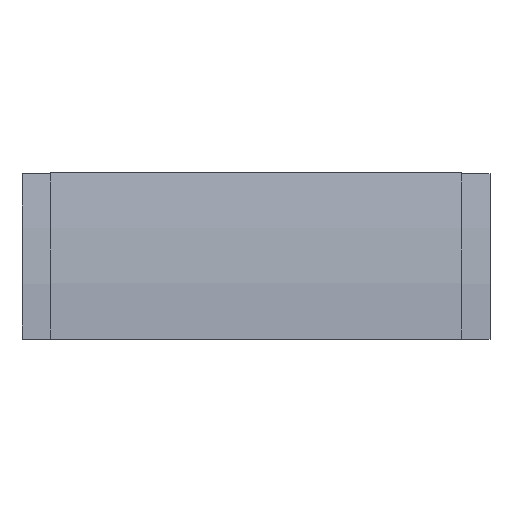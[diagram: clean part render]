
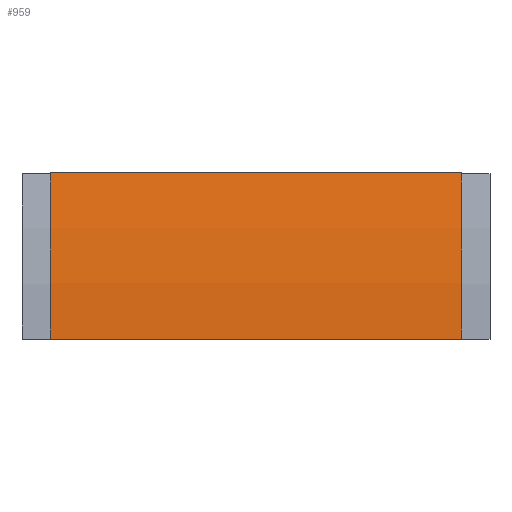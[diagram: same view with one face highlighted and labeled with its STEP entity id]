
A CAD part, front view. The second image highlights one B-rep face of the part: STEP entity #959.
In plain terms, the highlighted cylindrical face has radius 568 mm (diameter 1136 mm), a partial arc.
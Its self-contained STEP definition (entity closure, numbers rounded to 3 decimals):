
#11 = DIRECTION ( 'NONE',  ( 1., 0., 0. ) ) ;
#12 = CARTESIAN_POINT ( 'NONE',  ( -152., -68., 0. ) ) ;
#22 = DIRECTION ( 'NONE',  ( 1., 0., 0. ) ) ;
#24 = CARTESIAN_POINT ( 'NONE',  ( -152., -54.536, 122.938 ) ) ;
#34 = DIRECTION ( 'NONE',  ( 0., 0., -1. ) ) ;
#35 = DIRECTION ( 'NONE',  ( 1., 0., 0. ) ) ;
#36 = CARTESIAN_POINT ( 'NONE',  ( 152., 500., 0. ) ) ;
#71 = DIRECTION ( 'NONE',  ( 0., 0., -1. ) ) ;
#72 = DIRECTION ( 'NONE',  ( 1., 0., 0. ) ) ;
#73 = CARTESIAN_POINT ( 'NONE',  ( -152., 500., 0. ) ) ;
#120 = CYLINDRICAL_SURFACE ( 'NONE', #919, 568. ) ;
#176 = EDGE_CURVE ( 'NONE', #574, #561, #337, .T. ) ;
#192 = EDGE_CURVE ( 'NONE', #592, #554, #309, .T. ) ;
#197 = EDGE_CURVE ( 'NONE', #574, #592, #301, .T. ) ;
#202 = EDGE_CURVE ( 'NONE', #561, #554, #292, .T. ) ;
#219 = FACE_OUTER_BOUND ( 'NONE', #603, .T. ) ;
#289 = VECTOR ( 'NONE', #11, 1000. ) ;
#292 = LINE ( 'NONE', #12, #289 ) ;
#298 = VECTOR ( 'NONE', #22, 1000. ) ;
#301 = LINE ( 'NONE', #24, #298 ) ;
#309 = CIRCLE ( 'NONE', #991, 568. ) ;
#337 = CIRCLE ( 'NONE', #996, 568. ) ;
#414 = ORIENTED_EDGE ( 'NONE', *, *, #192, .F. ) ;
#415 = ORIENTED_EDGE ( 'NONE', *, *, #197, .F. ) ;
#416 = ORIENTED_EDGE ( 'NONE', *, *, #176, .T. ) ;
#417 = ORIENTED_EDGE ( 'NONE', *, *, #202, .T. ) ;
#554 = VERTEX_POINT ( 'NONE', #884 ) ;
#561 = VERTEX_POINT ( 'NONE', #850 ) ;
#574 = VERTEX_POINT ( 'NONE', #773 ) ;
#592 = VERTEX_POINT ( 'NONE', #728 ) ;
#603 = EDGE_LOOP ( 'NONE', ( #414, #415, #416, #417 ) ) ;
#686 = CARTESIAN_POINT ( 'NONE',  ( 0., 500., 0. ) ) ;
#689 = DIRECTION ( 'NONE',  ( 0., 0., -1. ) ) ;
#728 = CARTESIAN_POINT ( 'NONE',  ( 152., -54.536, 122.938 ) ) ;
#773 = CARTESIAN_POINT ( 'NONE',  ( -152., -54.536, 122.938 ) ) ;
#850 = CARTESIAN_POINT ( 'NONE',  ( -152., -68., 0. ) ) ;
#881 = DIRECTION ( 'NONE',  ( 1., 0., 0. ) ) ;
#884 = CARTESIAN_POINT ( 'NONE',  ( 152., -68., 0. ) ) ;
#919 = AXIS2_PLACEMENT_3D ( 'NONE', #686, #881, #689 ) ;
#959 = ADVANCED_FACE ( 'NONE', ( #219 ), #120, .T. ) ;
#991 = AXIS2_PLACEMENT_3D ( 'NONE', #36, #35, #34 ) ;
#996 = AXIS2_PLACEMENT_3D ( 'NONE', #73, #72, #71 ) ;
